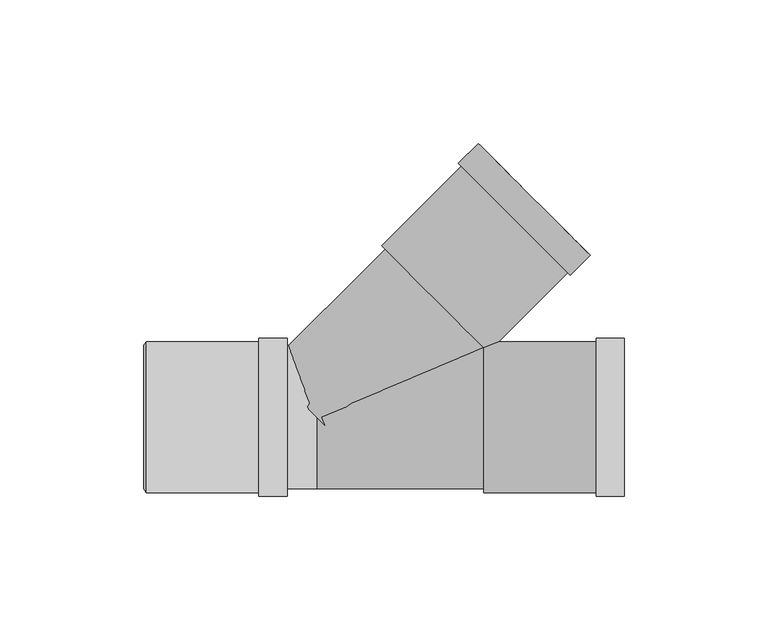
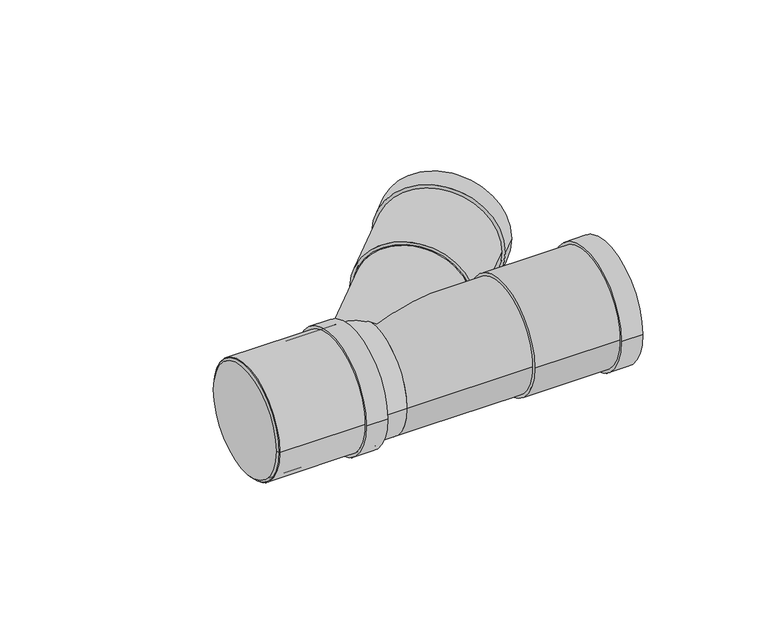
"""IFC4 building model written with IfcOpenShell, lengths in millimetres: pipe fitting geometry, Superdrain HTEA Branch : Superdrain HTEA Branch."""

from ifc_helpers import new_model, si_unit, point, frame, origin, origin_2d, place, context, project, spatial, polyline, circle_curve, trimmed, segment, composite_curve, outline, extrude, source, transform, mapped, element, save
from ifc_brep_helpers import plane_surface, cylinder_surface, revolved_surface, advanced_brep


def pipe_fitting_f4149198(model_context):
    return source(origin(), model_context, "Body", "SolidModel", [
        extrude(outline(composite_curve([segment(trimmed(circle_curve(origin_2d(), 26.25), [point((26.25, 0.0))], [point((-26.25, 0.0))], False, "CARTESIAN"), True, "CONTINUOUS"), segment(trimmed(circle_curve(origin_2d(), 26.25), [point((-26.25, 0.0))], [point((26.25, 0.0))], False, "CARTESIAN"), True, "CONTINUOUS")], self_intersect=False), holes=[composite_curve([segment(trimmed(circle_curve(origin_2d(), 25.0), [point((25.0, 0.0))], [point((-25.0, 0.0))], True, "CARTESIAN"), True, "CONTINUOUS"), segment(trimmed(circle_curve(origin_2d(), 25.0), [point((-25.0, 0.0))], [point((25.0, 0.0))], True, "CARTESIAN"), True, "CONTINUOUS")], self_intersect=False)]), frame((-59.3, 0.0, 0.0), z_axis=(1.0, 0.0, 0.0), x_axis=(0.0, 1.0, 0.0)), (0.0, 0.0, 1.0), 49.0),
        extrude(outline(composite_curve([segment(trimmed(circle_curve(origin_2d(), 27.5625), [point((27.5625, 0.0))], [point((-27.5625, 0.0))], False, "CARTESIAN"), True, "CONTINUOUS"), segment(trimmed(circle_curve(origin_2d(), 27.5625), [point((-27.5625, 0.0))], [point((27.5625, 0.0))], False, "CARTESIAN"), True, "CONTINUOUS")], self_intersect=False), holes=[composite_curve([segment(trimmed(circle_curve(origin_2d(), 25.0), [point((25.0, 0.0))], [point((-25.0, 0.0))], True, "CARTESIAN"), True, "CONTINUOUS"), segment(trimmed(circle_curve(origin_2d(), 25.0), [point((-25.0, 0.0))], [point((25.0, 0.0))], True, "CARTESIAN"), True, "CONTINUOUS")], self_intersect=False)]), frame((-20.1, 0.0, 0.0), z_axis=(1.0, 0.0, 0.0), x_axis=(0.0, 1.0, 0.0)), (0.0, 0.0, 1.0), 9.8),
        advanced_brep(
        [(-60.3, 25.0, 0.0), (-60.3, -25.0, 0.0), (-59.3, 26.25, 0.0), (-59.3, -26.25, 0.0)],
        [
            (0, 1, circle_curve(frame((-60.3, 0.0, 0.0), z_axis=(-1.0, 0.0, 0.0), x_axis=(0.0, 1.0000000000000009, 0.0)), 25.0)),
            (1, 0, circle_curve(frame((-60.3, 0.0, 0.0), z_axis=(-1.0, 0.0, 0.0), x_axis=(0.0, -1.0000000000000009, 0.0)), 25.0)),
            (2, 3, circle_curve(frame((-59.3, 0.0, 0.0), z_axis=(1.0, 0.0, 0.0), x_axis=(0.0, -1.0000000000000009, 0.0)), 26.25)),
            (3, 2, circle_curve(frame((-59.3, 0.0, 0.0), z_axis=(1.0, 0.0, 0.0), x_axis=(0.0, 1.0000000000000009, 0.0)), 26.25)),
            (3, 1),
            (0, 2),
        ],
        [
            plane_surface(frame((-60.3, 0.0, 0.0), z_axis=(-1.0, 0.0, 0.0), x_axis=(0.0, 0.0, -1.0))),
            plane_surface(frame((-59.3, 0.0, 0.0), z_axis=(1.0, 0.0, 0.0), x_axis=(0.0, 0.0, -1.0))),
            revolved_surface(polyline([(-60.3, 24.999999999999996, 0.0), (-59.3, 26.25, 0.0)]), (-80.3, 0.0, 0.0), (1.0000000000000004, 0.0, 0.0)),
            revolved_surface(polyline([(-60.3, -24.999999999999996, 0.0), (-59.3, -26.25, 0.0)]), (-80.3, 0.0, 0.0), (1.0000000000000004, 0.0, 0.0)),
        ],
        [
            (0, [[1, 2]]),
            (1, [[3, 4]]),
            (2, [[-4, 5, -1, 6]]),
            (3, [[-3, -6, -2, -5]]),
        ],
    ),
        advanced_brep(
        [(58.2, -26.25, 0.0), (58.2, 26.25, 0.0), (107.2, -26.25, 0.0), (107.2, 26.25, 0.0), (107.2, -25.0, 0.0), (107.2, 25.0, 0.0), (59.2, -25.0, 0.0), (59.2, 25.0, 0.0)],
        [
            (0, 1, circle_curve(frame((58.2, 0.0, 0.0), z_axis=(-1.0, 0.0, 0.0), x_axis=(0.0, 1.0, 0.0)), 26.25)),
            (1, 0, circle_curve(frame((58.2, 0.0, 0.0), z_axis=(-1.0, 0.0, 0.0), x_axis=(0.0, 1.0, 0.0)), 26.25)),
            (2, 3, circle_curve(frame((107.2, 0.0, 0.0), z_axis=(1.0, 0.0, 0.0), x_axis=(0.0, 1.0, 0.0)), 26.25)),
            (3, 2, circle_curve(frame((107.2, 0.0, 0.0), z_axis=(1.0, 0.0, 0.0), x_axis=(0.0, 1.0, 0.0)), 26.25)),
            (4, 5, circle_curve(frame((107.2, 0.0, 0.0), z_axis=(-1.0, 0.0, 0.0), x_axis=(0.0, 1.0, 0.0)), 25.0)),
            (5, 4, circle_curve(frame((107.2, 0.0, 0.0), z_axis=(-1.0, 0.0, 0.0), x_axis=(0.0, 1.0, 0.0)), 25.0)),
            (0, 2),
            (3, 1),
            (6, 7, circle_curve(frame((59.2, 0.0, 0.0), z_axis=(-1.0, 0.0, 0.0), x_axis=(0.0, 1.0, 0.0)), 25.0)),
            (7, 5),
            (4, 6),
            (7, 6, circle_curve(frame((59.2, 0.0, 0.0), z_axis=(-1.0, 0.0, 0.0), x_axis=(0.0, 1.0, 0.0)), 25.0)),
        ],
        [
            plane_surface(frame((58.2, 0.0, 0.0), z_axis=(-1.0, 0.0, 0.0), x_axis=(0.0, 0.0, 1.0))),
            plane_surface(frame((107.2, 0.0, 0.0), z_axis=(1.0, 0.0, 0.0), x_axis=(0.0, 0.0, 1.0))),
            cylinder_surface(frame((58.2, 0.0, 0.0), z_axis=(-1.0, 0.0, 0.0), x_axis=(0.0, 1.0, 0.0)), 26.25),
            revolved_surface(polyline([(59.2, 25.0, 0.0), (107.2, 25.0, 0.0)]), (59.2, 0.0, 0.0), (-1.0, 0.0, 0.0)),
            plane_surface(frame((59.2, 0.0, 0.0), z_axis=(1.0, 0.0, 0.0), x_axis=(0.0, 0.0, 1.0))),
        ],
        [
            (0, [[1, 2]]),
            (1, [[3, 4], [5, 6]]),
            (2, [[-1, 7, -4, 8]]),
            (2, [[-2, -8, -3, -7]]),
            (3, [[9, 10, -5, 11]]),
            (3, [[12, -11, -6, -10]]),
            (4, [[-12, -9]]),
        ],
    ),
        extrude(outline(composite_curve([segment(trimmed(circle_curve(origin_2d(), 27.5625), [point((27.5625, 0.0))], [point((-27.5625, 0.0))], False, "CARTESIAN"), True, "CONTINUOUS"), segment(trimmed(circle_curve(origin_2d(), 27.5625), [point((-27.5625, 0.0))], [point((27.5625, 0.0))], False, "CARTESIAN"), True, "CONTINUOUS")], self_intersect=False), holes=[composite_curve([segment(trimmed(circle_curve(origin_2d(), 25.0), [point((25.0, 0.0))], [point((-25.0, 0.0))], True, "CARTESIAN"), True, "CONTINUOUS"), segment(trimmed(circle_curve(origin_2d(), 25.0), [point((-25.0, 0.0))], [point((25.0, 0.0))], True, "CARTESIAN"), True, "CONTINUOUS")], self_intersect=False)]), frame((97.4, 0.0, 0.0), z_axis=(1.0, 0.0, 0.0), x_axis=(0.0, 1.0, 0.0)), (0.0, 0.0, 1.0), 9.8),
        extrude(outline(composite_curve([segment(trimmed(circle_curve(origin_2d(), 24.5), [point((0.0, 24.4999999))], [point((0.0, -24.4999999))], False, "CARTESIAN"), True, "CONTINUOUS"), segment(trimmed(circle_curve(origin_2d(), 24.5), [point((0.0, -24.4999999))], [point((0.0, 24.4999999))], False, "CARTESIAN"), True, "CONTINUOUS")], self_intersect=False)), frame((0.0, 0.0, 0.0), z_axis=(0.7071067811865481, 0.707106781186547, 0.0), x_axis=(0.0, 0.0, 1.0)), (0.0, 0.0, 1.0), 58.2),
        extrude(outline(composite_curve([segment(trimmed(circle_curve(origin_2d(), 25.0), [point((25.0, 0.0))], [point((-25.0, 0.0))], False, "CARTESIAN"), True, "CONTINUOUS"), segment(trimmed(circle_curve(origin_2d(), 25.0), [point((-25.0, 0.0))], [point((25.0, 0.0))], False, "CARTESIAN"), True, "CONTINUOUS")], self_intersect=False)), frame((-59.3, 0.0, 0.0), z_axis=(1.0, 0.0, 0.0), x_axis=(0.0, 1.0, 0.0)), (0.0, 0.0, 1.0), 59.3),
        extrude(outline(composite_curve([segment(trimmed(circle_curve(origin_2d(), 25.0), [point((-25.0, 0.0))], [point((25.0, 0.0))], False, "CARTESIAN"), True, "CONTINUOUS"), segment(trimmed(circle_curve(origin_2d(), 25.0), [point((25.0, 0.0))], [point((-25.0, 0.0))], False, "CARTESIAN"), True, "CONTINUOUS")], self_intersect=False)), frame((0.0, 0.0, 0.0), z_axis=(1.0, 0.0, 0.0), x_axis=(0.0, 1.0, 0.0)), (0.0, 0.0, 1.0), 58.2),
        extrude(outline(composite_curve([segment(trimmed(circle_curve(origin_2d(), 27.5625), [point((0.0, 27.5625))], [point((0.0, -27.5625))], False, "CARTESIAN"), True, "CONTINUOUS"), segment(trimmed(circle_curve(origin_2d(), 27.5625), [point((0.0, -27.5625))], [point((0.0, 27.5625))], False, "CARTESIAN"), True, "CONTINUOUS")], self_intersect=False), holes=[composite_curve([segment(trimmed(circle_curve(origin_2d(), 25.0), [point((0.0, 25.0))], [point((0.0, -25.0))], True, "CARTESIAN"), True, "CONTINUOUS"), segment(trimmed(circle_curve(origin_2d(), 25.0), [point((0.0, -25.0))], [point((0.0, 25.0))], True, "CARTESIAN"), True, "CONTINUOUS")], self_intersect=False)]), frame((68.8722005, 68.8722005, 0.0), z_axis=(0.7071067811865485, 0.7071067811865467, 0.0), x_axis=(0.0, 0.0, 1.0)), (0.0, 0.0, 1.0), 9.8),
        extrude(outline(composite_curve([segment(trimmed(circle_curve(origin_2d(), 26.25), [point((0.0, 26.25))], [point((0.0, -26.25))], False, "CARTESIAN"), True, "CONTINUOUS"), segment(trimmed(circle_curve(origin_2d(), 26.25), [point((0.0, -26.25))], [point((0.0, 26.25))], False, "CARTESIAN"), True, "CONTINUOUS")], self_intersect=False), holes=[composite_curve([segment(trimmed(circle_curve(origin_2d(), 25.0), [point((0.0, 25.0))], [point((0.0, -25.0))], True, "CARTESIAN"), True, "CONTINUOUS"), segment(trimmed(circle_curve(origin_2d(), 25.0), [point((0.0, -25.0))], [point((0.0, 25.0))], True, "CARTESIAN"), True, "CONTINUOUS")], self_intersect=False)]), frame((41.1536147, 41.1536147, 0.0), z_axis=(0.7071067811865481, 0.7071067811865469, 0.0), x_axis=(0.0, 0.0, 1.0)), (0.0, 0.0, 1.0), 49.0),
    ])


if __name__ == "__main__":
    model = new_model("IFC4")
    model_context = context("Model", 3, world=origin())
    ifc_project = project(units=[si_unit("LENGTHUNIT", "METRE", prefix="MILLI")], contexts=[model_context])
    site = spatial("IfcSite", under=ifc_project)
    building = spatial("IfcBuilding", under=site)
    placement = place(None, origin())
    pipe_fitting_shape = pipe_fitting_f4149198(model_context)
    element("IfcPipeFitting", 1, ObjectType="Superdrain HTEA Branch : Superdrain HTEA Branch", at=placement, inside=building, context=model_context, shape_type="MappedRepresentation", body=[
        mapped(pipe_fitting_shape, transform((0.0, 0.0, 0.0), x_axis=(1.0, 0.0, 0.0), y_axis=(0.0, 1.0, 0.0), z_axis=(0.0, 0.0, 1.0))),
    ])
    save(model, "model.ifc")
